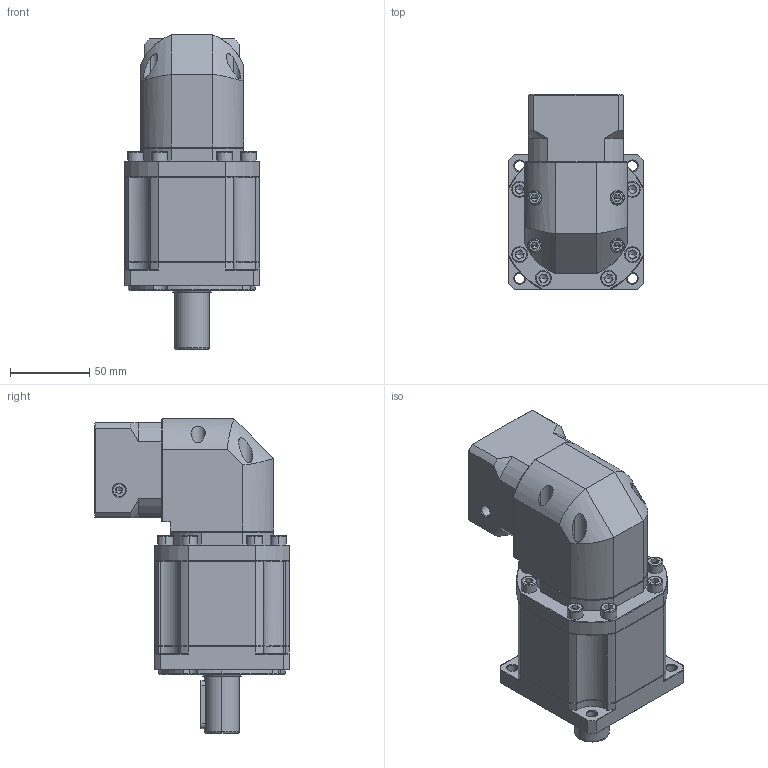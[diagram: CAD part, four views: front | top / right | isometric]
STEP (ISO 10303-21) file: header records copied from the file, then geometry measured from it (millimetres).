
FILE_DESCRIPTION (( 'STEP AP214' ), '1' );
FILE_NAME ('ZBR090-D22-L3-P2-11-50-70-M5.step', '2023-08-19T03:59:19', ( '' ), ( '' ), 'SwSTEP 2.0', 'SolidWorks 2016', '' );
FILE_SCHEMA (( 'AUTOMOTIVE_DESIGN' ));
Length unit declared in the file: millimetre
Products named in the file (1): ZBR090-D22-L3-P2-11-50-70-M5
Bounding box: 85 x 122.7 x 198 mm (x, y, z)
Volume: 923507.5 mm3; surface area: 105675.8 mm2
Topology: 5 solids, 5 shells, 2437 faces, 6482 edges, 4147 vertices
Faces by surface type: plane 1178, cylinder 445, bspline 426, cone 368, torus 20
Entity records: 129771 total; most frequent: CARTESIAN_POINT 45666, ORIENTED_EDGE 12872, DIRECTION 10371, EDGE_CURVE 6436, VERTEX_POINT 4147, LINE 4033, VECTOR 4033, AXIS2_PLACEMENT_3D 3169
